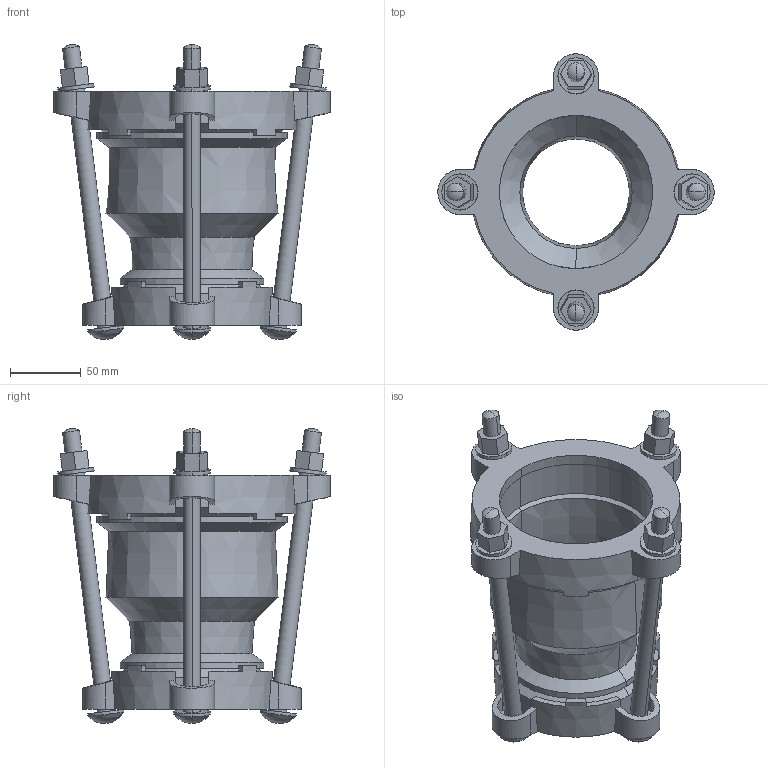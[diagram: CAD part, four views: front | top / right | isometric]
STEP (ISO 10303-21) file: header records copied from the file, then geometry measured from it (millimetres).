
FILE_DESCRIPTION((''),'2;1');
FILE_NAME('BIM_12395_2','2018-10-09T',('MReader'),(''),'CREO PARAMETRIC BY PTC INC, 2016130','CREO PARAMETRIC BY PTC INC, 2016130','');
FILE_SCHEMA(('CONFIG_CONTROL_DESIGN'));
Length unit declared in the file: millimetre
Products named in the file (1): BIM_12395_2
Bounding box: 195.5 x 195.5 x 208.59 mm (x, y, z)
Volume: 701920.2 mm3; surface area: 217235.1 mm2
Topology: 2 solids, 2 shells, 282 faces, 732 edges, 460 vertices
Faces by surface type: plane 122, cylinder 84, cone 60, sphere 16
Entity records: 9187 total; most frequent: CARTESIAN_POINT 2385, ORIENTED_EDGE 1432, DIRECTION 1380, EDGE_CURVE 716, AXIS2_PLACEMENT_3D 526, VERTEX_POINT 460, VECTOR 328, LINE 328
